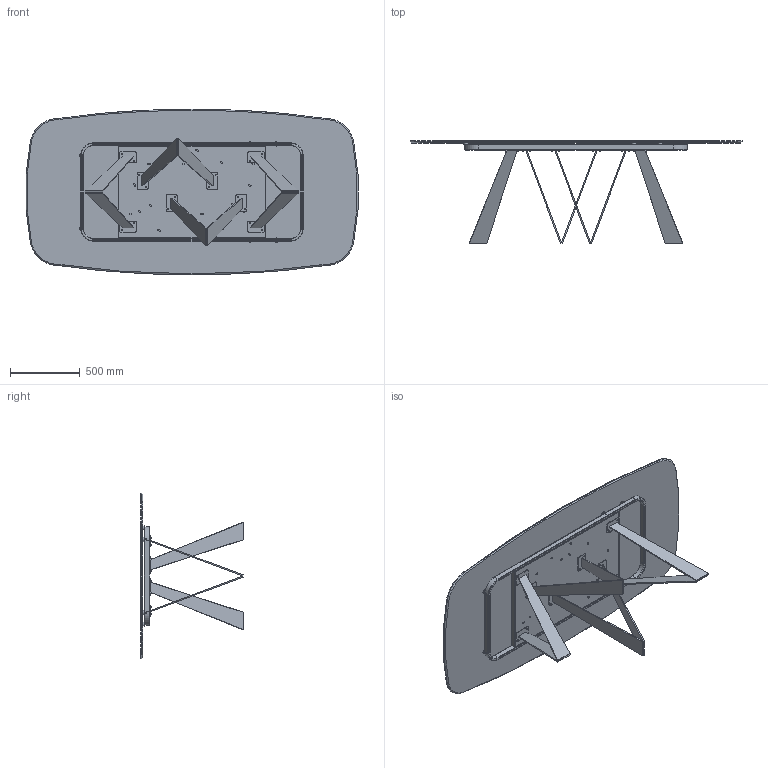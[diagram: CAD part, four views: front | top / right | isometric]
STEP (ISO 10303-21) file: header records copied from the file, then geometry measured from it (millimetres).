
FILE_DESCRIPTION (( 'STEP AP203' ), '1' );
FILE_NAME ('NO42C_Noa_239x119x75h_Ceramic Shaped.STEP', '2024-08-07T14:32:54', ( '' ), ( '' ), 'SwSTEP 2.0', 'SolidWorks 2022', '' );
FILE_SCHEMA (( 'CONFIG_CONTROL_DESIGN' ));
Length unit declared in the file: millimetre
Products named in the file (14): NOA000000-00-NOA BASE GREZZA; TTAV06-01-TELAIO X TAVOLI PLAI ONDA NOA 240cm_TTAV06; NO42C_Noa_239x119x75h_Ceramic Shaped; NOA000001GMB-00-Piastra Principale gamba NOA_Piatto SX; 434070-00-PIEDINO TPV GOMMA NERO D. 30x8max18; TTAV06_02-01-VASSOIO TAVOLI PLAI ONDA NOA 240; NOA000001PTRS-00-Piastra rettangoalre con fori; MAPPA; Assieme NOA var 3_noa 200-240; K4XCMXX-00-Piani Sagomati in ceramica_2390 x 1190; M8xXXmm_M8x16mm; TTAV06_01-01-STRUTTURA X TAVOLI PLAI ONDA NOA 240_Default<A macchina>; rondella M8_8X16; NOA000001GMB-00-Piastra Principale gamba NOA_Piatto DX
Assembly tree (51 placements, depth 4):
  NO42C_Noa_239x119x75h_Ceramic Shaped
    K4XCMXX-00-Piani Sagomati in ceramica_2390 x 1190
    Assieme NOA var 3_noa 200-240
      NOA000000-00-NOA BASE GREZZA  x4
        NOA000001GMB-00-Piastra Principale gamba NOA_Piatto SX
        NOA000001GMB-00-Piastra Principale gamba NOA_Piatto DX
        NOA000001PTRS-00-Piastra rettangoalre con fori
      TTAV06-01-TELAIO X TAVOLI PLAI ONDA NOA 240cm_TTAV06
        TTAV06_02-01-VASSOIO TAVOLI PLAI ONDA NOA 240
        TTAV06_01-01-STRUTTURA X TAVOLI PLAI ONDA NOA 240_Default<A macchina>
    M8xXXmm_M8x16mm  x16
    rondella M8_8X16  x16
    434070-00-PIEDINO TPV GOMMA NERO D. 30x8max18  x6
  MAPPA
Bounding box: 2382.15 x 735.8 x 1190 mm (x, y, z)
Volume: 50923098.1 mm3; surface area: 14606261.8 mm2
Topology: 71 solids, 71 shells, 1497 faces, 3421 edges, 2050 vertices
Faces by surface type: plane 586, cylinder 398, cone 265, torus 248
Entity records: 20807 total; most frequent: DIRECTION 3422, CARTESIAN_POINT 3151, ORIENTED_EDGE 2990, EDGE_CURVE 1495, AXIS2_PLACEMENT_3D 1291, VERTEX_POINT 934, LINE 840, VECTOR 840
